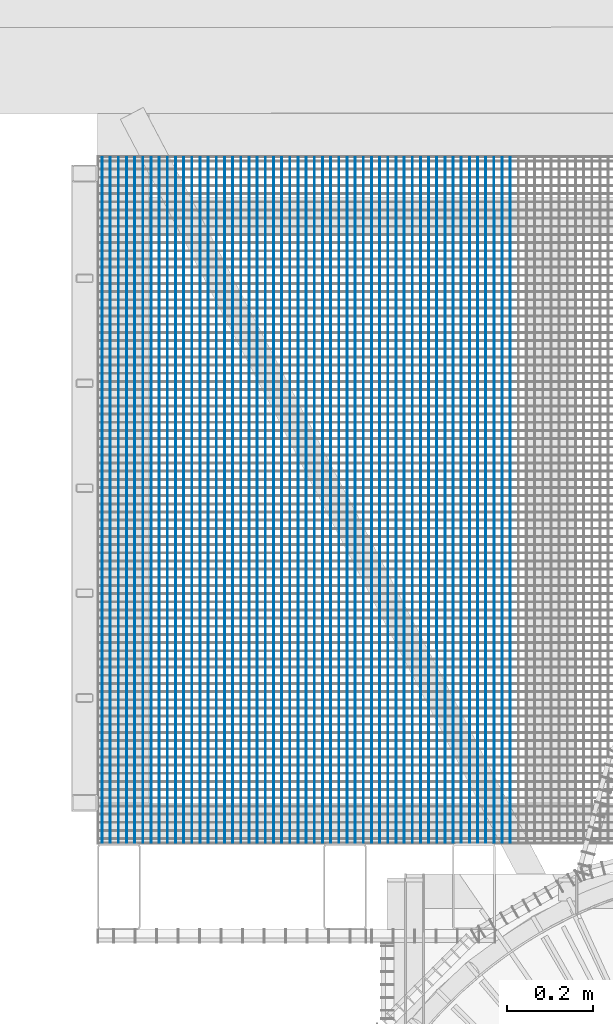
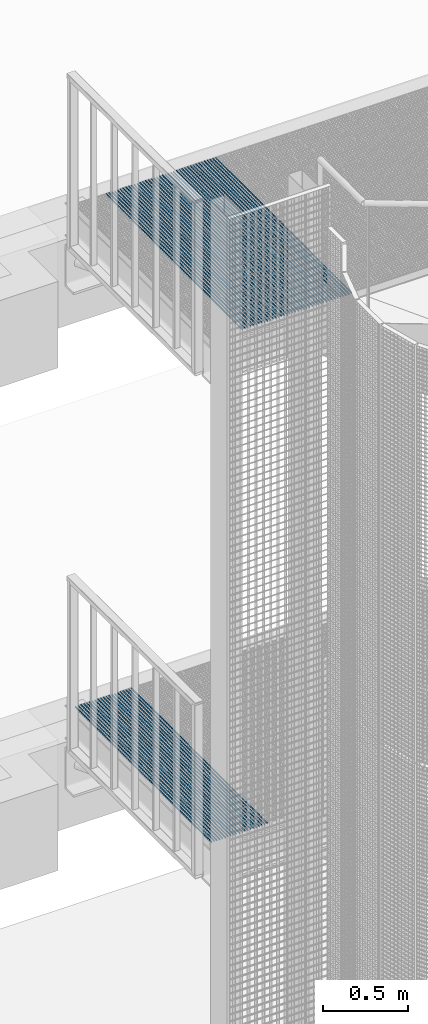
# One storey, part 78 of 1183: 61 beams, 2 elements without a shape of their own.
"""IFC2X3 building model written with IfcOpenShell, lengths in millimetres."""

from ifc_helpers import new_model, si_unit, frame, origin_with_axes, origin_2d_with_axis, place, context, subcontext, project, spatial, rectangle, extrude, material, type_object, element, aggregate, save


model = new_model("IFC2X3")

# Units and contexts
model_context = context("Model", 3, precision=1e-05, world=origin_with_axes())
body_context = subcontext(model_context, "Body", "Model", "MODEL_VIEW")
ifc_project = project(units=[si_unit("LENGTHUNIT", "METRE", prefix="MILLI"), si_unit("AREAUNIT", "SQUARE_METRE"), si_unit("VOLUMEUNIT", "CUBIC_METRE"), si_unit("MASSUNIT", "GRAM", prefix="KILO"), si_unit("TIMEUNIT", "SECOND"), si_unit("PLANEANGLEUNIT", "RADIAN"), si_unit("SOLIDANGLEUNIT", "STERADIAN"), si_unit("THERMODYNAMICTEMPERATUREUNIT", "DEGREE_CELSIUS"), si_unit("LUMINOUSINTENSITYUNIT", "LUMEN")], contexts=[model_context])

# Site, building, storey
site_placement = place(None, origin_with_axes())
site = spatial("IfcSite", under=ifc_project, at=site_placement, Name="Undefined", CompositionType="ELEMENT")
building_placement = place(site_placement, origin_with_axes())
building = spatial("IfcBuilding", under=site, at=building_placement, Name="Undefined", CompositionType="ELEMENT")
storey_placement = place(building_placement, origin_with_axes())
storey = spatial("IfcBuildingStorey", under=building, at=storey_placement, Name="Undefined", CompositionType="ELEMENT", Elevation=0.0)

# Assembly, beams
assembly_1_placement = place(storey_placement, origin_with_axes())
assembly_1 = element("IfcElementAssembly", 1, at=assembly_1_placement, inside=storey, Name="BORDURE", AssemblyPlace="NOTDEFINED", PredefinedType="NOTDEFINED")
ifc_material = material(Name="STEEL/S235JR")
beam_type = type_object("IfcBeamType", Name="PL2*10", PredefinedType="NOTDEFINED")
beam_1_placement = place(assembly_1_placement, frame((-1329.9245752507, 1101.99577275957, 17285.0), z_axis=(0.0, 0.0, 1.0), x_axis=(-4.50599999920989e-06, 0.999999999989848, 0.0)))
beam_1 = element("IfcBeam", 2, at=beam_1_placement, type_object=beam_type, material=ifc_material, Name="ENTRETOISE", context=body_context, shape_type="SweptSolid", body=[
    extrude(rectangle(XDim=2.0, YDim=10.0, at=origin_2d_with_axis()), frame((1596.0000000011, -1.35186458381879e-18, -7.27595761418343e-12), z_axis=(-1.0, 0.0, 0.0), x_axis=(0.0, -1.0, 0.0)), (0.0, 0.0, 1.0), 1596.0),
])
beam_2_placement = place(assembly_1_placement, frame((-1310.92457525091, 1101.99586627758, 17285.0), z_axis=(0.0, 0.0, 1.0), x_axis=(-4.50599999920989e-06, 0.999999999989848, 0.0)))
beam_2 = element("IfcBeam", 3, at=beam_2_placement, type_object=beam_type, material=ifc_material, Name="ENTRETOISE", context=body_context, shape_type="SweptSolid", body=[
    extrude(rectangle(XDim=2.0, YDim=10.0, at=origin_2d_with_axis()), frame((1596.0000000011, -1.35186458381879e-18, -7.27595761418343e-12), z_axis=(-1.0, 0.0, 0.0), x_axis=(0.0, -1.0, 0.0)), (0.0, 0.0, 1.0), 1596.0),
])
beam_3_placement = place(assembly_1_placement, frame((-1291.92457525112, 1101.99595979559, 17285.0), z_axis=(0.0, 0.0, 1.0), x_axis=(-4.50599999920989e-06, 0.999999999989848, 0.0)))
beam_3 = element("IfcBeam", 4, at=beam_3_placement, type_object=beam_type, material=ifc_material, Name="ENTRETOISE", context=body_context, shape_type="SweptSolid", body=[
    extrude(rectangle(XDim=2.0, YDim=10.0, at=origin_2d_with_axis()), frame((1596.0000000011, -1.35186458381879e-18, -7.27595761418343e-12), z_axis=(-1.0, 0.0, 0.0), x_axis=(0.0, -1.0, 0.0)), (0.0, 0.0, 1.0), 1596.0),
])
beam_4_placement = place(assembly_1_placement, frame((-1272.92457525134, 1101.9960533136, 17285.0), z_axis=(0.0, 0.0, 1.0), x_axis=(-4.50599999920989e-06, 0.999999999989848, 0.0)))
beam_4 = element("IfcBeam", 5, at=beam_4_placement, type_object=beam_type, material=ifc_material, Name="ENTRETOISE", context=body_context, shape_type="SweptSolid", body=[
    extrude(rectangle(XDim=2.0, YDim=10.0, at=origin_2d_with_axis()), frame((1596.0000000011, -1.35186458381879e-18, -7.27595761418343e-12), z_axis=(-1.0, 0.0, 0.0), x_axis=(0.0, -1.0, 0.0)), (0.0, 0.0, 1.0), 1596.0),
])
beam_5_placement = place(assembly_1_placement, frame((-1253.92457525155, 1101.99614683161, 17285.0), z_axis=(0.0, 0.0, 1.0), x_axis=(-4.50599999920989e-06, 0.999999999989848, 0.0)))
beam_5 = element("IfcBeam", 6, at=beam_5_placement, type_object=beam_type, material=ifc_material, Name="ENTRETOISE", context=body_context, shape_type="SweptSolid", body=[
    extrude(rectangle(XDim=2.0, YDim=10.0, at=origin_2d_with_axis()), frame((1596.0000000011, -1.35186458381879e-18, -7.27595761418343e-12), z_axis=(-1.0, 0.0, 0.0), x_axis=(0.0, -1.0, 0.0)), (0.0, 0.0, 1.0), 1596.0),
])
beam_6_placement = place(assembly_1_placement, frame((-1234.92457525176, 1101.99624034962, 17285.0), z_axis=(0.0, 0.0, 1.0), x_axis=(-4.50599999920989e-06, 0.999999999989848, 0.0)))
beam_6 = element("IfcBeam", 7, at=beam_6_placement, type_object=beam_type, material=ifc_material, Name="ENTRETOISE", context=body_context, shape_type="SweptSolid", body=[
    extrude(rectangle(XDim=2.0, YDim=10.0, at=origin_2d_with_axis()), frame((1596.0000000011, -1.35186458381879e-18, -7.27595761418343e-12), z_axis=(-1.0, 0.0, 0.0), x_axis=(0.0, -1.0, 0.0)), (0.0, 0.0, 1.0), 1596.0),
])
beam_7_placement = place(assembly_1_placement, frame((-1215.92457525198, 1101.99633386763, 17285.0), z_axis=(0.0, 0.0, 1.0), x_axis=(-4.50599999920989e-06, 0.999999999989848, 0.0)))
beam_7 = element("IfcBeam", 8, at=beam_7_placement, type_object=beam_type, material=ifc_material, Name="ENTRETOISE", context=body_context, shape_type="SweptSolid", body=[
    extrude(rectangle(XDim=2.0, YDim=10.0, at=origin_2d_with_axis()), frame((1596.0000000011, -1.35186458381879e-18, -7.27595761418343e-12), z_axis=(-1.0, 0.0, 0.0), x_axis=(0.0, -1.0, 0.0)), (0.0, 0.0, 1.0), 1596.0),
])
beam_8_placement = place(assembly_1_placement, frame((-1196.92457525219, 1101.99642738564, 17285.0), z_axis=(0.0, 0.0, 1.0), x_axis=(-4.50599999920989e-06, 0.999999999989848, 0.0)))
beam_8 = element("IfcBeam", 9, at=beam_8_placement, type_object=beam_type, material=ifc_material, Name="ENTRETOISE", context=body_context, shape_type="SweptSolid", body=[
    extrude(rectangle(XDim=2.0, YDim=10.0, at=origin_2d_with_axis()), frame((1596.0000000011, -1.35186458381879e-18, -7.27595761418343e-12), z_axis=(-1.0, 0.0, 0.0), x_axis=(0.0, -1.0, 0.0)), (0.0, 0.0, 1.0), 1596.0),
])
beam_9_placement = place(assembly_1_placement, frame((-1177.9245752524, 1101.99652090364, 17285.0), z_axis=(0.0, 0.0, 1.0), x_axis=(-4.50599999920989e-06, 0.999999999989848, 0.0)))
beam_9 = element("IfcBeam", 10, at=beam_9_placement, type_object=beam_type, material=ifc_material, Name="ENTRETOISE", context=body_context, shape_type="SweptSolid", body=[
    extrude(rectangle(XDim=2.0, YDim=10.0, at=origin_2d_with_axis()), frame((1596.0000000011, -1.35186458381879e-18, -7.27595761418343e-12), z_axis=(-1.0, 0.0, 0.0), x_axis=(0.0, -1.0, 0.0)), (0.0, 0.0, 1.0), 1596.0),
])
beam_10_placement = place(assembly_1_placement, frame((-1158.92457525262, 1101.99661442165, 17285.0), z_axis=(0.0, 0.0, 1.0), x_axis=(-4.50599999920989e-06, 0.999999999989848, 0.0)))
beam_10 = element("IfcBeam", 11, at=beam_10_placement, type_object=beam_type, material=ifc_material, Name="ENTRETOISE", context=body_context, shape_type="SweptSolid", body=[
    extrude(rectangle(XDim=2.0, YDim=10.0, at=origin_2d_with_axis()), frame((1596.0000000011, -1.35186458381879e-18, -7.27595761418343e-12), z_axis=(-1.0, 0.0, 0.0), x_axis=(0.0, -1.0, 0.0)), (0.0, 0.0, 1.0), 1596.0),
])
beam_11_placement = place(assembly_1_placement, frame((-1139.92457525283, 1101.99670793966, 17285.0), z_axis=(0.0, 0.0, 1.0), x_axis=(-4.50599999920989e-06, 0.999999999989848, 0.0)))
beam_11 = element("IfcBeam", 12, at=beam_11_placement, type_object=beam_type, material=ifc_material, Name="ENTRETOISE", context=body_context, shape_type="SweptSolid", body=[
    extrude(rectangle(XDim=2.0, YDim=10.0, at=origin_2d_with_axis()), frame((1596.0000000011, -1.35186458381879e-18, -7.27595761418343e-12), z_axis=(-1.0, 0.0, 0.0), x_axis=(0.0, -1.0, 0.0)), (0.0, 0.0, 1.0), 1596.0),
])
beam_12_placement = place(assembly_1_placement, frame((-1120.92457525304, 1101.99680145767, 17285.0), z_axis=(0.0, 0.0, 1.0), x_axis=(-4.50599999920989e-06, 0.999999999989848, 0.0)))
beam_12 = element("IfcBeam", 13, at=beam_12_placement, type_object=beam_type, material=ifc_material, Name="ENTRETOISE", context=body_context, shape_type="SweptSolid", body=[
    extrude(rectangle(XDim=2.0, YDim=10.0, at=origin_2d_with_axis()), frame((1596.0000000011, -1.35186458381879e-18, -7.27595761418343e-12), z_axis=(-1.0, 0.0, 0.0), x_axis=(0.0, -1.0, 0.0)), (0.0, 0.0, 1.0), 1596.0),
])
beam_13_placement = place(assembly_1_placement, frame((-1101.92457525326, 1101.99689497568, 17285.0), z_axis=(0.0, 0.0, 1.0), x_axis=(-4.50599999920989e-06, 0.999999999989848, 0.0)))
beam_13 = element("IfcBeam", 14, at=beam_13_placement, type_object=beam_type, material=ifc_material, Name="ENTRETOISE", context=body_context, shape_type="SweptSolid", body=[
    extrude(rectangle(XDim=2.0, YDim=10.0, at=origin_2d_with_axis()), frame((1596.0000000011, -1.35186458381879e-18, -7.27595761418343e-12), z_axis=(-1.0, 0.0, 0.0), x_axis=(0.0, -1.0, 0.0)), (0.0, 0.0, 1.0), 1596.0),
])
beam_14_placement = place(assembly_1_placement, frame((-1082.92457525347, 1101.99698849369, 17285.0), z_axis=(0.0, 0.0, 1.0), x_axis=(-4.50599999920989e-06, 0.999999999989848, 0.0)))
beam_14 = element("IfcBeam", 15, at=beam_14_placement, type_object=beam_type, material=ifc_material, Name="ENTRETOISE", context=body_context, shape_type="SweptSolid", body=[
    extrude(rectangle(XDim=2.0, YDim=10.0, at=origin_2d_with_axis()), frame((1596.0000000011, -1.35186458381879e-18, -7.27595761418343e-12), z_axis=(-1.0, 0.0, 0.0), x_axis=(0.0, -1.0, 0.0)), (0.0, 0.0, 1.0), 1596.0),
])
beam_15_placement = place(assembly_1_placement, frame((-1063.92457525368, 1101.9970820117, 17285.0), z_axis=(0.0, 0.0, 1.0), x_axis=(-4.50599999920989e-06, 0.999999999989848, 0.0)))
beam_15 = element("IfcBeam", 16, at=beam_15_placement, type_object=beam_type, material=ifc_material, Name="ENTRETOISE", context=body_context, shape_type="SweptSolid", body=[
    extrude(rectangle(XDim=2.0, YDim=10.0, at=origin_2d_with_axis()), frame((1596.0000000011, -1.35186458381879e-18, -7.27595761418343e-12), z_axis=(-1.0, 0.0, 0.0), x_axis=(0.0, -1.0, 0.0)), (0.0, 0.0, 1.0), 1596.0),
])
beam_16_placement = place(assembly_1_placement, frame((-1044.9245752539, 1101.99717552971, 17285.0), z_axis=(0.0, 0.0, 1.0), x_axis=(-4.50599999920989e-06, 0.999999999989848, 0.0)))
beam_16 = element("IfcBeam", 17, at=beam_16_placement, type_object=beam_type, material=ifc_material, Name="ENTRETOISE", context=body_context, shape_type="SweptSolid", body=[
    extrude(rectangle(XDim=2.0, YDim=10.0, at=origin_2d_with_axis()), frame((1596.0000000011, -1.35186458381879e-18, -7.27595761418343e-12), z_axis=(-1.0, 0.0, 0.0), x_axis=(0.0, -1.0, 0.0)), (0.0, 0.0, 1.0), 1596.0),
])
beam_17_placement = place(assembly_1_placement, frame((-1025.92457525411, 1101.99726904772, 17285.0), z_axis=(0.0, 0.0, 1.0), x_axis=(-4.50599999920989e-06, 0.999999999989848, 0.0)))
beam_17 = element("IfcBeam", 18, at=beam_17_placement, type_object=beam_type, material=ifc_material, Name="ENTRETOISE", context=body_context, shape_type="SweptSolid", body=[
    extrude(rectangle(XDim=2.0, YDim=10.0, at=origin_2d_with_axis()), frame((1596.0000000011, -1.35186458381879e-18, -7.27595761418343e-12), z_axis=(-1.0, 0.0, 0.0), x_axis=(0.0, -1.0, 0.0)), (0.0, 0.0, 1.0), 1596.0),
])
beam_18_placement = place(assembly_1_placement, frame((-1006.92457525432, 1101.99736256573, 17285.0), z_axis=(0.0, 0.0, 1.0), x_axis=(-4.50599999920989e-06, 0.999999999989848, 0.0)))
beam_18 = element("IfcBeam", 19, at=beam_18_placement, type_object=beam_type, material=ifc_material, Name="ENTRETOISE", context=body_context, shape_type="SweptSolid", body=[
    extrude(rectangle(XDim=2.0, YDim=10.0, at=origin_2d_with_axis()), frame((1596.0000000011, -1.35186458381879e-18, -7.27595761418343e-12), z_axis=(-1.0, 0.0, 0.0), x_axis=(0.0, -1.0, 0.0)), (0.0, 0.0, 1.0), 1596.0),
])
beam_19_placement = place(assembly_1_placement, frame((-987.924575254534, 1101.99745608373, 17285.0), z_axis=(0.0, 0.0, 1.0), x_axis=(-4.50599999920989e-06, 0.999999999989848, 0.0)))
beam_19 = element("IfcBeam", 20, at=beam_19_placement, type_object=beam_type, material=ifc_material, Name="ENTRETOISE", context=body_context, shape_type="SweptSolid", body=[
    extrude(rectangle(XDim=2.0, YDim=10.0, at=origin_2d_with_axis()), frame((1596.0000000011, -1.35186458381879e-18, -7.27595761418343e-12), z_axis=(-1.0, 0.0, 0.0), x_axis=(0.0, -1.0, 0.0)), (0.0, 0.0, 1.0), 1596.0),
])
beam_20_placement = place(assembly_1_placement, frame((-968.924575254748, 1101.99754960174, 17285.0), z_axis=(0.0, 0.0, 1.0), x_axis=(-4.50599999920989e-06, 0.999999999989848, 0.0)))
beam_20 = element("IfcBeam", 21, at=beam_20_placement, type_object=beam_type, material=ifc_material, Name="ENTRETOISE", context=body_context, shape_type="SweptSolid", body=[
    extrude(rectangle(XDim=2.0, YDim=10.0, at=origin_2d_with_axis()), frame((1596.0000000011, -1.35186458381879e-18, -7.27595761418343e-12), z_axis=(-1.0, 0.0, 0.0), x_axis=(0.0, -1.0, 0.0)), (0.0, 0.0, 1.0), 1596.0),
])
beam_21_placement = place(assembly_1_placement, frame((-949.924575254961, 1101.99764311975, 17285.0), z_axis=(0.0, 0.0, 1.0), x_axis=(-4.50599999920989e-06, 0.999999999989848, 0.0)))
beam_21 = element("IfcBeam", 22, at=beam_21_placement, type_object=beam_type, material=ifc_material, Name="ENTRETOISE", context=body_context, shape_type="SweptSolid", body=[
    extrude(rectangle(XDim=2.0, YDim=10.0, at=origin_2d_with_axis()), frame((1596.0000000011, -1.35186458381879e-18, -7.27595761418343e-12), z_axis=(-1.0, 0.0, 0.0), x_axis=(0.0, -1.0, 0.0)), (0.0, 0.0, 1.0), 1596.0),
])
beam_22_placement = place(assembly_1_placement, frame((-930.924575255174, 1101.99773663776, 17285.0), z_axis=(0.0, 0.0, 1.0), x_axis=(-4.50599999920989e-06, 0.999999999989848, 0.0)))
beam_22 = element("IfcBeam", 23, at=beam_22_placement, type_object=beam_type, material=ifc_material, Name="ENTRETOISE", context=body_context, shape_type="SweptSolid", body=[
    extrude(rectangle(XDim=2.0, YDim=10.0, at=origin_2d_with_axis()), frame((1596.0000000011, -1.35186458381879e-18, -7.27595761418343e-12), z_axis=(-1.0, 0.0, 0.0), x_axis=(0.0, -1.0, 0.0)), (0.0, 0.0, 1.0), 1596.0),
])
beam_23_placement = place(assembly_1_placement, frame((-911.924575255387, 1101.99783015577, 17285.0), z_axis=(0.0, 0.0, 1.0), x_axis=(-4.50599999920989e-06, 0.999999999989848, 0.0)))
beam_23 = element("IfcBeam", 24, at=beam_23_placement, type_object=beam_type, material=ifc_material, Name="ENTRETOISE", context=body_context, shape_type="SweptSolid", body=[
    extrude(rectangle(XDim=2.0, YDim=10.0, at=origin_2d_with_axis()), frame((1596.0000000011, -1.35186458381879e-18, -7.27595761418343e-12), z_axis=(-1.0, 0.0, 0.0), x_axis=(0.0, -1.0, 0.0)), (0.0, 0.0, 1.0), 1596.0),
])
beam_24_placement = place(assembly_1_placement, frame((-892.924575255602, 1101.99792367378, 17285.0), z_axis=(0.0, 0.0, 1.0), x_axis=(-4.50599999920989e-06, 0.999999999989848, 0.0)))
beam_24 = element("IfcBeam", 25, at=beam_24_placement, type_object=beam_type, material=ifc_material, Name="ENTRETOISE", context=body_context, shape_type="SweptSolid", body=[
    extrude(rectangle(XDim=2.0, YDim=10.0, at=origin_2d_with_axis()), frame((1596.0000000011, -1.35186458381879e-18, -7.27595761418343e-12), z_axis=(-1.0, 0.0, 0.0), x_axis=(0.0, -1.0, 0.0)), (0.0, 0.0, 1.0), 1596.0),
])
beam_25_placement = place(assembly_1_placement, frame((-873.924575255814, 1101.99801719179, 17285.0), z_axis=(0.0, 0.0, 1.0), x_axis=(-4.50599999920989e-06, 0.999999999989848, 0.0)))
beam_25 = element("IfcBeam", 26, at=beam_25_placement, type_object=beam_type, material=ifc_material, Name="ENTRETOISE", context=body_context, shape_type="SweptSolid", body=[
    extrude(rectangle(XDim=2.0, YDim=10.0, at=origin_2d_with_axis()), frame((1596.0000000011, -1.35186458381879e-18, -7.27595761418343e-12), z_axis=(-1.0, 0.0, 0.0), x_axis=(0.0, -1.0, 0.0)), (0.0, 0.0, 1.0), 1596.0),
])
beam_26_placement = place(assembly_1_placement, frame((-854.924575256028, 1101.9981107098, 17285.0), z_axis=(0.0, 0.0, 1.0), x_axis=(-4.50599999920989e-06, 0.999999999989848, 0.0)))
beam_26 = element("IfcBeam", 27, at=beam_26_placement, type_object=beam_type, material=ifc_material, Name="ENTRETOISE", context=body_context, shape_type="SweptSolid", body=[
    extrude(rectangle(XDim=2.0, YDim=10.0, at=origin_2d_with_axis()), frame((1596.0000000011, -1.35186458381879e-18, -7.27595761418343e-12), z_axis=(-1.0, 0.0, 0.0), x_axis=(0.0, -1.0, 0.0)), (0.0, 0.0, 1.0), 1596.0),
])
beam_27_placement = place(assembly_1_placement, frame((-835.92457525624, 1101.99820422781, 17285.0), z_axis=(0.0, 0.0, 1.0), x_axis=(-4.50599999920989e-06, 0.999999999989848, 0.0)))
beam_27 = element("IfcBeam", 28, at=beam_27_placement, type_object=beam_type, material=ifc_material, Name="ENTRETOISE", context=body_context, shape_type="SweptSolid", body=[
    extrude(rectangle(XDim=2.0, YDim=10.0, at=origin_2d_with_axis()), frame((1596.0000000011, -1.35186458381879e-18, -7.27595761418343e-12), z_axis=(-1.0, 0.0, 0.0), x_axis=(0.0, -1.0, 0.0)), (0.0, 0.0, 1.0), 1596.0),
])
beam_28_placement = place(assembly_1_placement, frame((-816.924575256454, 1101.99829774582, 17285.0), z_axis=(0.0, 0.0, 1.0), x_axis=(-4.50599999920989e-06, 0.999999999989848, 0.0)))
beam_28 = element("IfcBeam", 29, at=beam_28_placement, type_object=beam_type, material=ifc_material, Name="ENTRETOISE", context=body_context, shape_type="SweptSolid", body=[
    extrude(rectangle(XDim=2.0, YDim=10.0, at=origin_2d_with_axis()), frame((1596.0000000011, -1.35186458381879e-18, -7.27595761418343e-12), z_axis=(-1.0, 0.0, 0.0), x_axis=(0.0, -1.0, 0.0)), (0.0, 0.0, 1.0), 1596.0),
])
beam_29_placement = place(assembly_1_placement, frame((-797.924575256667, 1101.99839126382, 17285.0), z_axis=(0.0, 0.0, 1.0), x_axis=(-4.50599999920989e-06, 0.999999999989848, 0.0)))
beam_29 = element("IfcBeam", 30, at=beam_29_placement, type_object=beam_type, material=ifc_material, Name="ENTRETOISE", context=body_context, shape_type="SweptSolid", body=[
    extrude(rectangle(XDim=2.0, YDim=10.0, at=origin_2d_with_axis()), frame((1596.0000000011, -1.35186458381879e-18, -7.27595761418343e-12), z_axis=(-1.0, 0.0, 0.0), x_axis=(0.0, -1.0, 0.0)), (0.0, 0.0, 1.0), 1596.0),
])
beam_30_placement = place(assembly_1_placement, frame((-778.92457525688, 1101.99848478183, 17285.0), z_axis=(0.0, 0.0, 1.0), x_axis=(-4.50599999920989e-06, 0.999999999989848, 0.0)))
beam_30 = element("IfcBeam", 31, at=beam_30_placement, type_object=beam_type, material=ifc_material, Name="ENTRETOISE", context=body_context, shape_type="SweptSolid", body=[
    extrude(rectangle(XDim=2.0, YDim=10.0, at=origin_2d_with_axis()), frame((1596.0000000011, -1.35186458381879e-18, -7.27595761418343e-12), z_axis=(-1.0, 0.0, 0.0), x_axis=(0.0, -1.0, 0.0)), (0.0, 0.0, 1.0), 1596.0),
])
beam_31_placement = place(assembly_1_placement, frame((-759.924575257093, 1101.99857829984, 17285.0), z_axis=(0.0, 0.0, 1.0), x_axis=(-4.50599999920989e-06, 0.999999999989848, 0.0)))
beam_31 = element("IfcBeam", 32, at=beam_31_placement, type_object=beam_type, material=ifc_material, Name="ENTRETOISE", context=body_context, shape_type="SweptSolid", body=[
    extrude(rectangle(XDim=2.0, YDim=10.0, at=origin_2d_with_axis()), frame((1596.0000000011, -1.35186458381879e-18, -7.27595761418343e-12), z_axis=(-1.0, 0.0, 0.0), x_axis=(0.0, -1.0, 0.0)), (0.0, 0.0, 1.0), 1596.0),
])
beam_32_placement = place(assembly_1_placement, frame((-740.924575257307, 1101.99867181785, 17285.0), z_axis=(0.0, 0.0, 1.0), x_axis=(-4.50599999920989e-06, 0.999999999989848, 0.0)))
beam_32 = element("IfcBeam", 33, at=beam_32_placement, type_object=beam_type, material=ifc_material, Name="ENTRETOISE", context=body_context, shape_type="SweptSolid", body=[
    extrude(rectangle(XDim=2.0, YDim=10.0, at=origin_2d_with_axis()), frame((1596.0000000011, -1.35186458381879e-18, -7.27595761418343e-12), z_axis=(-1.0, 0.0, 0.0), x_axis=(0.0, -1.0, 0.0)), (0.0, 0.0, 1.0), 1596.0),
])
beam_33_placement = place(assembly_1_placement, frame((-721.92457525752, 1101.99876533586, 17285.0), z_axis=(0.0, 0.0, 1.0), x_axis=(-4.50599999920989e-06, 0.999999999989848, 0.0)))
beam_33 = element("IfcBeam", 34, at=beam_33_placement, type_object=beam_type, material=ifc_material, Name="ENTRETOISE", context=body_context, shape_type="SweptSolid", body=[
    extrude(rectangle(XDim=2.0, YDim=10.0, at=origin_2d_with_axis()), frame((1596.0000000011, -1.35186458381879e-18, -7.27595761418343e-12), z_axis=(-1.0, 0.0, 0.0), x_axis=(0.0, -1.0, 0.0)), (0.0, 0.0, 1.0), 1596.0),
])
beam_34_placement = place(assembly_1_placement, frame((-702.924575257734, 1101.99885885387, 17285.0), z_axis=(0.0, 0.0, 1.0), x_axis=(-4.50599999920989e-06, 0.999999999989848, 0.0)))
beam_34 = element("IfcBeam", 35, at=beam_34_placement, type_object=beam_type, material=ifc_material, Name="ENTRETOISE", context=body_context, shape_type="SweptSolid", body=[
    extrude(rectangle(XDim=2.0, YDim=10.0, at=origin_2d_with_axis()), frame((1596.0000000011, -1.35186458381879e-18, -7.27595761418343e-12), z_axis=(-1.0, 0.0, 0.0), x_axis=(0.0, -1.0, 0.0)), (0.0, 0.0, 1.0), 1596.0),
])
beam_35_placement = place(assembly_1_placement, frame((-683.924575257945, 1101.99895237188, 17285.0), z_axis=(0.0, 0.0, 1.0), x_axis=(-4.50599999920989e-06, 0.999999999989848, 0.0)))
beam_35 = element("IfcBeam", 36, at=beam_35_placement, type_object=beam_type, material=ifc_material, Name="ENTRETOISE", context=body_context, shape_type="SweptSolid", body=[
    extrude(rectangle(XDim=2.0, YDim=10.0, at=origin_2d_with_axis()), frame((1596.0000000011, -1.35186458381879e-18, -7.27595761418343e-12), z_axis=(-1.0, 0.0, 0.0), x_axis=(0.0, -1.0, 0.0)), (0.0, 0.0, 1.0), 1596.0),
])
beam_36_placement = place(assembly_1_placement, frame((-664.92457525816, 1101.99904588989, 17285.0), z_axis=(0.0, 0.0, 1.0), x_axis=(-4.50599999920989e-06, 0.999999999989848, 0.0)))
beam_36 = element("IfcBeam", 37, at=beam_36_placement, type_object=beam_type, material=ifc_material, Name="ENTRETOISE", context=body_context, shape_type="SweptSolid", body=[
    extrude(rectangle(XDim=2.0, YDim=10.0, at=origin_2d_with_axis()), frame((1596.0000000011, -1.35186458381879e-18, -7.27595761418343e-12), z_axis=(-1.0, 0.0, 0.0), x_axis=(0.0, -1.0, 0.0)), (0.0, 0.0, 1.0), 1596.0),
])
beam_37_placement = place(assembly_1_placement, frame((-645.924575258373, 1101.9991394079, 17285.0), z_axis=(0.0, 0.0, 1.0), x_axis=(-4.50599999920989e-06, 0.999999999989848, 0.0)))
beam_37 = element("IfcBeam", 38, at=beam_37_placement, type_object=beam_type, material=ifc_material, Name="ENTRETOISE", context=body_context, shape_type="SweptSolid", body=[
    extrude(rectangle(XDim=2.0, YDim=10.0, at=origin_2d_with_axis()), frame((1596.0000000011, -1.35186458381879e-18, -7.27595761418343e-12), z_axis=(-1.0, 0.0, 0.0), x_axis=(0.0, -1.0, 0.0)), (0.0, 0.0, 1.0), 1596.0),
])
beam_38_placement = place(assembly_1_placement, frame((-626.924575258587, 1101.99923292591, 17285.0), z_axis=(0.0, 0.0, 1.0), x_axis=(-4.50599999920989e-06, 0.999999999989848, 0.0)))
beam_38 = element("IfcBeam", 39, at=beam_38_placement, type_object=beam_type, material=ifc_material, Name="ENTRETOISE", context=body_context, shape_type="SweptSolid", body=[
    extrude(rectangle(XDim=2.0, YDim=10.0, at=origin_2d_with_axis()), frame((1596.0000000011, -1.35186458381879e-18, -7.27595761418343e-12), z_axis=(-1.0, 0.0, 0.0), x_axis=(0.0, -1.0, 0.0)), (0.0, 0.0, 1.0), 1596.0),
])
beam_39_placement = place(assembly_1_placement, frame((-607.924575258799, 1101.99932644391, 17285.0), z_axis=(0.0, 0.0, 1.0), x_axis=(-4.50599999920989e-06, 0.999999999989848, 0.0)))
beam_39 = element("IfcBeam", 40, at=beam_39_placement, type_object=beam_type, material=ifc_material, Name="ENTRETOISE", context=body_context, shape_type="SweptSolid", body=[
    extrude(rectangle(XDim=2.0, YDim=10.0, at=origin_2d_with_axis()), frame((1596.0000000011, -1.35186458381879e-18, -7.27595761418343e-12), z_axis=(-1.0, 0.0, 0.0), x_axis=(0.0, -1.0, 0.0)), (0.0, 0.0, 1.0), 1596.0),
])
beam_40_placement = place(assembly_1_placement, frame((-588.924575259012, 1101.99941996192, 17285.0), z_axis=(0.0, 0.0, 1.0), x_axis=(-4.50599999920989e-06, 0.999999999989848, 0.0)))
beam_40 = element("IfcBeam", 41, at=beam_40_placement, type_object=beam_type, material=ifc_material, Name="ENTRETOISE", context=body_context, shape_type="SweptSolid", body=[
    extrude(rectangle(XDim=2.0, YDim=10.0, at=origin_2d_with_axis()), frame((1596.0000000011, -1.35186458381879e-18, -7.27595761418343e-12), z_axis=(-1.0, 0.0, 0.0), x_axis=(0.0, -1.0, 0.0)), (0.0, 0.0, 1.0), 1596.0),
])
aggregate(assembly_1, [beam_1, beam_2, beam_3, beam_4, beam_5, beam_6, beam_7, beam_8, beam_9, beam_10, beam_11, beam_12, beam_13, beam_14, beam_15, beam_16, beam_17, beam_18, beam_19, beam_20, beam_21, beam_22, beam_23, beam_24, beam_25, beam_26, beam_27, beam_28, beam_29, beam_30, beam_31, beam_32, beam_33, beam_34, beam_35, beam_36, beam_37, beam_38, beam_39, beam_40])

assembly_2_placement = place(storey_placement, origin_with_axes())
assembly_2 = element("IfcElementAssembly", 42, at=assembly_2_placement, inside=storey, Name="BORDURE", AssemblyPlace="NOTDEFINED", PredefinedType="NOTDEFINED")
beam_41_placement = place(assembly_2_placement, frame((-1538.92457524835, 1101.99474406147, 13685.0), z_axis=(0.0, 0.0, 1.0), x_axis=(-4.50599999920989e-06, 0.999999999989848, 0.0)))
beam_41 = element("IfcBeam", 43, at=beam_41_placement, type_object=beam_type, material=ifc_material, Name="ENTRETOISE", context=body_context, shape_type="SweptSolid", body=[
    extrude(rectangle(XDim=2.0, YDim=10.0, at=origin_2d_with_axis()), frame((1596.0000000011, -1.35186458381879e-18, -7.27595761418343e-12), z_axis=(-1.0, 0.0, 0.0), x_axis=(0.0, -1.0, 0.0)), (0.0, 0.0, 1.0), 1596.0),
])
beam_42_placement = place(assembly_2_placement, frame((-1519.92457524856, 1101.99483757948, 13685.0), z_axis=(0.0, 0.0, 1.0), x_axis=(-4.50599999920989e-06, 0.999999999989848, 0.0)))
beam_42 = element("IfcBeam", 44, at=beam_42_placement, type_object=beam_type, material=ifc_material, Name="ENTRETOISE", context=body_context, shape_type="SweptSolid", body=[
    extrude(rectangle(XDim=2.0, YDim=10.0, at=origin_2d_with_axis()), frame((1596.0000000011, -1.35186458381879e-18, -7.27595761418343e-12), z_axis=(-1.0, 0.0, 0.0), x_axis=(0.0, -1.0, 0.0)), (0.0, 0.0, 1.0), 1596.0),
])
beam_43_placement = place(assembly_2_placement, frame((-1500.92457524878, 1101.99493109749, 13685.0), z_axis=(0.0, 0.0, 1.0), x_axis=(-4.50599999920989e-06, 0.999999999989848, 0.0)))
beam_43 = element("IfcBeam", 45, at=beam_43_placement, type_object=beam_type, material=ifc_material, Name="ENTRETOISE", context=body_context, shape_type="SweptSolid", body=[
    extrude(rectangle(XDim=2.0, YDim=10.0, at=origin_2d_with_axis()), frame((1596.0000000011, -1.35186458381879e-18, -7.27595761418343e-12), z_axis=(-1.0, 0.0, 0.0), x_axis=(0.0, -1.0, 0.0)), (0.0, 0.0, 1.0), 1596.0),
])
beam_44_placement = place(assembly_2_placement, frame((-1481.92457524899, 1101.9950246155, 13685.0), z_axis=(0.0, 0.0, 1.0), x_axis=(-4.50599999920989e-06, 0.999999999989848, 0.0)))
beam_44 = element("IfcBeam", 46, at=beam_44_placement, type_object=beam_type, material=ifc_material, Name="ENTRETOISE", context=body_context, shape_type="SweptSolid", body=[
    extrude(rectangle(XDim=2.0, YDim=10.0, at=origin_2d_with_axis()), frame((1596.0000000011, -1.35186458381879e-18, -7.27595761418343e-12), z_axis=(-1.0, 0.0, 0.0), x_axis=(0.0, -1.0, 0.0)), (0.0, 0.0, 1.0), 1596.0),
])
beam_45_placement = place(assembly_2_placement, frame((-1462.92457524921, 1101.99511813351, 13685.0), z_axis=(0.0, 0.0, 1.0), x_axis=(-4.50599999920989e-06, 0.999999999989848, 0.0)))
beam_45 = element("IfcBeam", 47, at=beam_45_placement, type_object=beam_type, material=ifc_material, Name="ENTRETOISE", context=body_context, shape_type="SweptSolid", body=[
    extrude(rectangle(XDim=2.0, YDim=10.0, at=origin_2d_with_axis()), frame((1596.0000000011, -1.35186458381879e-18, -7.27595761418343e-12), z_axis=(-1.0, 0.0, 0.0), x_axis=(0.0, -1.0, 0.0)), (0.0, 0.0, 1.0), 1596.0),
])
beam_46_placement = place(assembly_2_placement, frame((-1443.92457524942, 1101.99521165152, 13685.0), z_axis=(0.0, 0.0, 1.0), x_axis=(-4.50599999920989e-06, 0.999999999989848, 0.0)))
beam_46 = element("IfcBeam", 48, at=beam_46_placement, type_object=beam_type, material=ifc_material, Name="ENTRETOISE", context=body_context, shape_type="SweptSolid", body=[
    extrude(rectangle(XDim=2.0, YDim=10.0, at=origin_2d_with_axis()), frame((1596.0000000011, -1.35186458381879e-18, -7.27595761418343e-12), z_axis=(-1.0, 0.0, 0.0), x_axis=(0.0, -1.0, 0.0)), (0.0, 0.0, 1.0), 1596.0),
])
beam_47_placement = place(assembly_2_placement, frame((-1424.92457524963, 1101.99530516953, 13685.0), z_axis=(0.0, 0.0, 1.0), x_axis=(-4.50599999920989e-06, 0.999999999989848, 0.0)))
beam_47 = element("IfcBeam", 49, at=beam_47_placement, type_object=beam_type, material=ifc_material, Name="ENTRETOISE", context=body_context, shape_type="SweptSolid", body=[
    extrude(rectangle(XDim=2.0, YDim=10.0, at=origin_2d_with_axis()), frame((1596.0000000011, -1.35186458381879e-18, -7.27595761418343e-12), z_axis=(-1.0, 0.0, 0.0), x_axis=(0.0, -1.0, 0.0)), (0.0, 0.0, 1.0), 1596.0),
])
beam_48_placement = place(assembly_2_placement, frame((-1405.92457524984, 1101.99539868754, 13685.0), z_axis=(0.0, 0.0, 1.0), x_axis=(-4.50599999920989e-06, 0.999999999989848, 0.0)))
beam_48 = element("IfcBeam", 50, at=beam_48_placement, type_object=beam_type, material=ifc_material, Name="ENTRETOISE", context=body_context, shape_type="SweptSolid", body=[
    extrude(rectangle(XDim=2.0, YDim=10.0, at=origin_2d_with_axis()), frame((1596.0000000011, -1.35186458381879e-18, -7.27595761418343e-12), z_axis=(-1.0, 0.0, 0.0), x_axis=(0.0, -1.0, 0.0)), (0.0, 0.0, 1.0), 1596.0),
])
beam_49_placement = place(assembly_2_placement, frame((-1386.92457525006, 1101.99549220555, 13685.0), z_axis=(0.0, 0.0, 1.0), x_axis=(-4.50599999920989e-06, 0.999999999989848, 0.0)))
beam_49 = element("IfcBeam", 51, at=beam_49_placement, type_object=beam_type, material=ifc_material, Name="ENTRETOISE", context=body_context, shape_type="SweptSolid", body=[
    extrude(rectangle(XDim=2.0, YDim=10.0, at=origin_2d_with_axis()), frame((1596.0000000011, -1.35186458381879e-18, -7.27595761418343e-12), z_axis=(-1.0, 0.0, 0.0), x_axis=(0.0, -1.0, 0.0)), (0.0, 0.0, 1.0), 1596.0),
])
beam_50_placement = place(assembly_2_placement, frame((-1367.92457525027, 1101.99558572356, 13685.0), z_axis=(0.0, 0.0, 1.0), x_axis=(-4.50599999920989e-06, 0.999999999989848, 0.0)))
beam_50 = element("IfcBeam", 52, at=beam_50_placement, type_object=beam_type, material=ifc_material, Name="ENTRETOISE", context=body_context, shape_type="SweptSolid", body=[
    extrude(rectangle(XDim=2.0, YDim=10.0, at=origin_2d_with_axis()), frame((1596.0000000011, -1.35186458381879e-18, -7.27595761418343e-12), z_axis=(-1.0, 0.0, 0.0), x_axis=(0.0, -1.0, 0.0)), (0.0, 0.0, 1.0), 1596.0),
])
beam_51_placement = place(assembly_2_placement, frame((-1348.92457525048, 1101.99567924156, 13685.0), z_axis=(0.0, 0.0, 1.0), x_axis=(-4.50599999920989e-06, 0.999999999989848, 0.0)))
beam_51 = element("IfcBeam", 53, at=beam_51_placement, type_object=beam_type, material=ifc_material, Name="ENTRETOISE", context=body_context, shape_type="SweptSolid", body=[
    extrude(rectangle(XDim=2.0, YDim=10.0, at=origin_2d_with_axis()), frame((1596.0000000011, -1.35186458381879e-18, -7.27595761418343e-12), z_axis=(-1.0, 0.0, 0.0), x_axis=(0.0, -1.0, 0.0)), (0.0, 0.0, 1.0), 1596.0),
])
beam_52_placement = place(assembly_2_placement, frame((-1329.9245752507, 1101.99577275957, 13685.0), z_axis=(0.0, 0.0, 1.0), x_axis=(-4.50599999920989e-06, 0.999999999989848, 0.0)))
beam_52 = element("IfcBeam", 54, at=beam_52_placement, type_object=beam_type, material=ifc_material, Name="ENTRETOISE", context=body_context, shape_type="SweptSolid", body=[
    extrude(rectangle(XDim=2.0, YDim=10.0, at=origin_2d_with_axis()), frame((1596.0000000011, -1.35186458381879e-18, -7.27595761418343e-12), z_axis=(-1.0, 0.0, 0.0), x_axis=(0.0, -1.0, 0.0)), (0.0, 0.0, 1.0), 1596.0),
])
beam_53_placement = place(assembly_2_placement, frame((-1310.92457525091, 1101.99586627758, 13685.0), z_axis=(0.0, 0.0, 1.0), x_axis=(-4.50599999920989e-06, 0.999999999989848, 0.0)))
beam_53 = element("IfcBeam", 55, at=beam_53_placement, type_object=beam_type, material=ifc_material, Name="ENTRETOISE", context=body_context, shape_type="SweptSolid", body=[
    extrude(rectangle(XDim=2.0, YDim=10.0, at=origin_2d_with_axis()), frame((1596.0000000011, -1.35186458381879e-18, -7.27595761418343e-12), z_axis=(-1.0, 0.0, 0.0), x_axis=(0.0, -1.0, 0.0)), (0.0, 0.0, 1.0), 1596.0),
])
beam_54_placement = place(assembly_2_placement, frame((-1291.92457525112, 1101.99595979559, 13685.0), z_axis=(0.0, 0.0, 1.0), x_axis=(-4.50599999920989e-06, 0.999999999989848, 0.0)))
beam_54 = element("IfcBeam", 56, at=beam_54_placement, type_object=beam_type, material=ifc_material, Name="ENTRETOISE", context=body_context, shape_type="SweptSolid", body=[
    extrude(rectangle(XDim=2.0, YDim=10.0, at=origin_2d_with_axis()), frame((1596.0000000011, -1.35186458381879e-18, -7.27595761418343e-12), z_axis=(-1.0, 0.0, 0.0), x_axis=(0.0, -1.0, 0.0)), (0.0, 0.0, 1.0), 1596.0),
])
beam_55_placement = place(assembly_2_placement, frame((-1272.92457525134, 1101.9960533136, 13685.0), z_axis=(0.0, 0.0, 1.0), x_axis=(-4.50599999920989e-06, 0.999999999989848, 0.0)))
beam_55 = element("IfcBeam", 57, at=beam_55_placement, type_object=beam_type, material=ifc_material, Name="ENTRETOISE", context=body_context, shape_type="SweptSolid", body=[
    extrude(rectangle(XDim=2.0, YDim=10.0, at=origin_2d_with_axis()), frame((1596.0000000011, -1.35186458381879e-18, -7.27595761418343e-12), z_axis=(-1.0, 0.0, 0.0), x_axis=(0.0, -1.0, 0.0)), (0.0, 0.0, 1.0), 1596.0),
])
beam_56_placement = place(assembly_2_placement, frame((-1253.92457525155, 1101.99614683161, 13685.0), z_axis=(0.0, 0.0, 1.0), x_axis=(-4.50599999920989e-06, 0.999999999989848, 0.0)))
beam_56 = element("IfcBeam", 58, at=beam_56_placement, type_object=beam_type, material=ifc_material, Name="ENTRETOISE", context=body_context, shape_type="SweptSolid", body=[
    extrude(rectangle(XDim=2.0, YDim=10.0, at=origin_2d_with_axis()), frame((1596.0000000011, -1.35186458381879e-18, -7.27595761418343e-12), z_axis=(-1.0, 0.0, 0.0), x_axis=(0.0, -1.0, 0.0)), (0.0, 0.0, 1.0), 1596.0),
])
beam_57_placement = place(assembly_2_placement, frame((-1234.92457525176, 1101.99624034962, 13685.0), z_axis=(0.0, 0.0, 1.0), x_axis=(-4.50599999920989e-06, 0.999999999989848, 0.0)))
beam_57 = element("IfcBeam", 59, at=beam_57_placement, type_object=beam_type, material=ifc_material, Name="ENTRETOISE", context=body_context, shape_type="SweptSolid", body=[
    extrude(rectangle(XDim=2.0, YDim=10.0, at=origin_2d_with_axis()), frame((1596.0000000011, -1.35186458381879e-18, -7.27595761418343e-12), z_axis=(-1.0, 0.0, 0.0), x_axis=(0.0, -1.0, 0.0)), (0.0, 0.0, 1.0), 1596.0),
])
beam_58_placement = place(assembly_2_placement, frame((-1215.92457525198, 1101.99633386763, 13685.0), z_axis=(0.0, 0.0, 1.0), x_axis=(-4.50599999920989e-06, 0.999999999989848, 0.0)))
beam_58 = element("IfcBeam", 60, at=beam_58_placement, type_object=beam_type, material=ifc_material, Name="ENTRETOISE", context=body_context, shape_type="SweptSolid", body=[
    extrude(rectangle(XDim=2.0, YDim=10.0, at=origin_2d_with_axis()), frame((1596.0000000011, -1.35186458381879e-18, -7.27595761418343e-12), z_axis=(-1.0, 0.0, 0.0), x_axis=(0.0, -1.0, 0.0)), (0.0, 0.0, 1.0), 1596.0),
])
beam_59_placement = place(assembly_2_placement, frame((-1196.92457525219, 1101.99642738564, 13685.0), z_axis=(0.0, 0.0, 1.0), x_axis=(-4.50599999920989e-06, 0.999999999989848, 0.0)))
beam_59 = element("IfcBeam", 61, at=beam_59_placement, type_object=beam_type, material=ifc_material, Name="ENTRETOISE", context=body_context, shape_type="SweptSolid", body=[
    extrude(rectangle(XDim=2.0, YDim=10.0, at=origin_2d_with_axis()), frame((1596.0000000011, -1.35186458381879e-18, -7.27595761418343e-12), z_axis=(-1.0, 0.0, 0.0), x_axis=(0.0, -1.0, 0.0)), (0.0, 0.0, 1.0), 1596.0),
])
beam_60_placement = place(assembly_2_placement, frame((-1177.9245752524, 1101.99652090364, 13685.0), z_axis=(0.0, 0.0, 1.0), x_axis=(-4.50599999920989e-06, 0.999999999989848, 0.0)))
beam_60 = element("IfcBeam", 62, at=beam_60_placement, type_object=beam_type, material=ifc_material, Name="ENTRETOISE", context=body_context, shape_type="SweptSolid", body=[
    extrude(rectangle(XDim=2.0, YDim=10.0, at=origin_2d_with_axis()), frame((1596.0000000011, -1.35186458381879e-18, -7.27595761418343e-12), z_axis=(-1.0, 0.0, 0.0), x_axis=(0.0, -1.0, 0.0)), (0.0, 0.0, 1.0), 1596.0),
])
beam_61_placement = place(assembly_2_placement, frame((-1158.92457525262, 1101.99661442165, 13685.0), z_axis=(0.0, 0.0, 1.0), x_axis=(-4.50599999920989e-06, 0.999999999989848, 0.0)))
beam_61 = element("IfcBeam", 63, at=beam_61_placement, type_object=beam_type, material=ifc_material, Name="ENTRETOISE", context=body_context, shape_type="SweptSolid", body=[
    extrude(rectangle(XDim=2.0, YDim=10.0, at=origin_2d_with_axis()), frame((1596.0000000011, -1.35186458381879e-18, -7.27595761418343e-12), z_axis=(-1.0, 0.0, 0.0), x_axis=(0.0, -1.0, 0.0)), (0.0, 0.0, 1.0), 1596.0),
])
aggregate(assembly_2, [beam_41, beam_42, beam_43, beam_44, beam_45, beam_46, beam_47, beam_48, beam_49, beam_50, beam_51, beam_52, beam_53, beam_54, beam_55, beam_56, beam_57, beam_58, beam_59, beam_60, beam_61])

save(model, "model.ifc")
